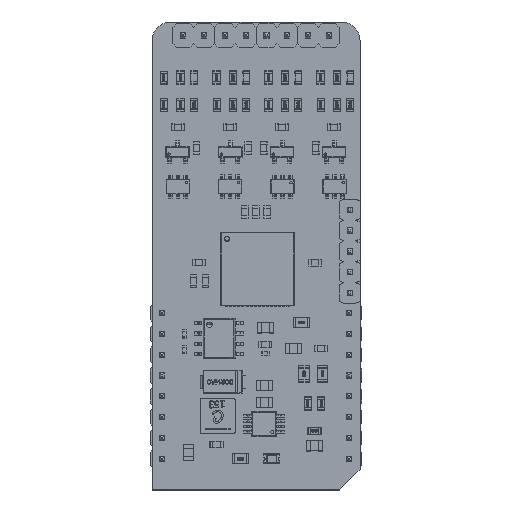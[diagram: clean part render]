
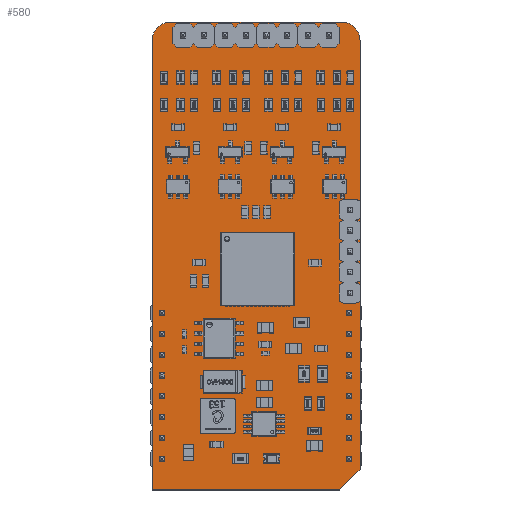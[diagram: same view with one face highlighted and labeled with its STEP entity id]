
A CAD part, top view. The second image highlights one B-rep face of the part: STEP entity #580.
In plain terms, the highlighted planar face has unit normal (0, 0, 1).
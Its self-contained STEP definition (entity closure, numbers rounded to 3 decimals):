
#351 = VERTEX_POINT('',#352);
#352 = CARTESIAN_POINT('',(-1.27,-3.81,0.));
#358 = EDGE_CURVE('',#351,#359,#361,.T.);
#359 = VERTEX_POINT('',#360);
#360 = CARTESIAN_POINT('',(-1.27,51.054,0.));
#361 = LINE('',#362,#363);
#362 = CARTESIAN_POINT('',(-1.27,-3.81,0.));
#363 = VECTOR('',#364,1.);
#364 = DIRECTION('',(0.,1.,0.));
#389 = EDGE_CURVE('',#359,#390,#392,.T.);
#390 = VERTEX_POINT('',#391);
#391 = CARTESIAN_POINT('',(1.016,53.34,0.));
#392 = CIRCLE('',#393,2.288);
#393 = AXIS2_PLACEMENT_3D('',#394,#395,#396);
#394 = CARTESIAN_POINT('',(1.018,51.052,0.));
#395 = DIRECTION('',(0.,0.,-1.));
#396 = DIRECTION('',(-1.,0.001,0.));
#422 = EDGE_CURVE('',#390,#423,#425,.T.);
#423 = VERTEX_POINT('',#424);
#424 = CARTESIAN_POINT('',(21.844,53.34,0.));
#425 = LINE('',#426,#427);
#426 = CARTESIAN_POINT('',(1.016,53.34,0.));
#427 = VECTOR('',#428,1.);
#428 = DIRECTION('',(1.,0.,0.));
#453 = EDGE_CURVE('',#423,#454,#456,.T.);
#454 = VERTEX_POINT('',#455);
#455 = CARTESIAN_POINT('',(24.13,51.054,0.));
#456 = CIRCLE('',#457,2.288);
#457 = AXIS2_PLACEMENT_3D('',#458,#459,#460);
#458 = CARTESIAN_POINT('',(21.842,51.052,0.));
#459 = DIRECTION('',(0.,0.,-1.));
#460 = DIRECTION('',(0.001,1.,0.));
#486 = EDGE_CURVE('',#454,#487,#489,.T.);
#487 = VERTEX_POINT('',#488);
#488 = CARTESIAN_POINT('',(24.13,-1.27,0.));
#489 = LINE('',#490,#491);
#490 = CARTESIAN_POINT('',(24.13,51.054,0.));
#491 = VECTOR('',#492,1.);
#492 = DIRECTION('',(0.,-1.,0.));
#517 = EDGE_CURVE('',#487,#518,#520,.T.);
#518 = VERTEX_POINT('',#519);
#519 = CARTESIAN_POINT('',(21.59,-3.81,0.));
#520 = LINE('',#521,#522);
#521 = CARTESIAN_POINT('',(24.13,-1.27,0.));
#522 = VECTOR('',#523,1.);
#523 = DIRECTION('',(-0.707,-0.707,0.));
#548 = EDGE_CURVE('',#518,#351,#549,.T.);
#549 = LINE('',#550,#551);
#550 = CARTESIAN_POINT('',(21.59,-3.81,0.));
#551 = VECTOR('',#552,1.);
#552 = DIRECTION('',(-1.,0.,0.));
#580 = ADVANCED_FACE('',(#581),#590,.T.);
#581 = FACE_BOUND('',#582,.F.);
#582 = EDGE_LOOP('',(#583,#584,#585,#586,#587,#588,#589));
#583 = ORIENTED_EDGE('',*,*,#358,.T.);
#584 = ORIENTED_EDGE('',*,*,#389,.T.);
#585 = ORIENTED_EDGE('',*,*,#422,.T.);
#586 = ORIENTED_EDGE('',*,*,#453,.T.);
#587 = ORIENTED_EDGE('',*,*,#486,.T.);
#588 = ORIENTED_EDGE('',*,*,#517,.T.);
#589 = ORIENTED_EDGE('',*,*,#548,.T.);
#590 = PLANE('',#591);
#591 = AXIS2_PLACEMENT_3D('',#592,#593,#594);
#592 = CARTESIAN_POINT('',(-1.27,-3.81,0.));
#593 = DIRECTION('',(0.,0.,1.));
#594 = DIRECTION('',(1.,0.,0.));
